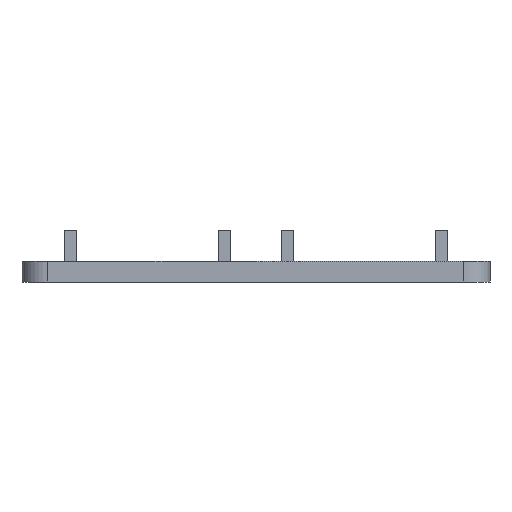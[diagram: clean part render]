
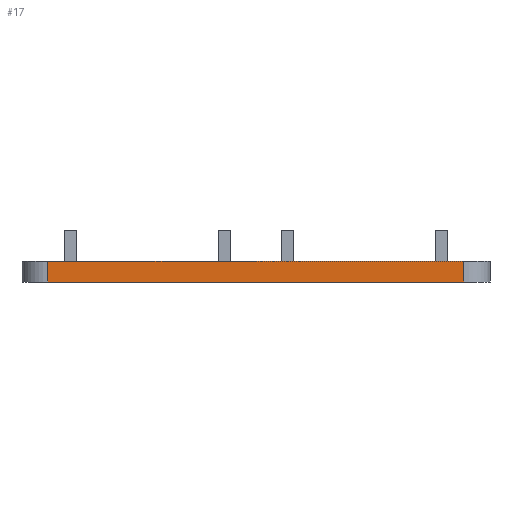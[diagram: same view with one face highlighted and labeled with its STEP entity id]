
A CAD part, left-side view. The second image highlights one B-rep face of the part: STEP entity #17.
In plain terms, the highlighted planar face has unit normal (-1, 0, 0).
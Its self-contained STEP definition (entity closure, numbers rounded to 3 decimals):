
#17 = ADVANCED_FACE('',(#18),#32,.F.);
#18 = FACE_BOUND('',#19,.F.);
#19 = EDGE_LOOP('',(#20,#55,#83,#111));
#20 = ORIENTED_EDGE('',*,*,#21,.F.);
#21 = EDGE_CURVE('',#22,#24,#26,.T.);
#22 = VERTEX_POINT('',#23);
#23 = CARTESIAN_POINT('',(-32.,-24.,2.4));
#24 = VERTEX_POINT('',#25);
#25 = CARTESIAN_POINT('',(-32.,24.,2.4));
#26 = SURFACE_CURVE('',#27,(#31,#43),.PCURVE_S1.);
#27 = LINE('',#28,#29);
#28 = CARTESIAN_POINT('',(-32.,-27.,2.4));
#29 = VECTOR('',#30,1.);
#30 = DIRECTION('',(0.,1.,0.));
#31 = PCURVE('',#32,#37);
#32 = PLANE('',#33);
#33 = AXIS2_PLACEMENT_3D('',#34,#35,#36);
#34 = CARTESIAN_POINT('',(-32.,-27.,0.));
#35 = DIRECTION('',(1.,0.,0.));
#36 = DIRECTION('',(0.,0.,1.));
#37 = DEFINITIONAL_REPRESENTATION('',(#38),#42);
#38 = LINE('',#39,#40);
#39 = CARTESIAN_POINT('',(2.4,0.));
#40 = VECTOR('',#41,1.);
#41 = DIRECTION('',(0.,-1.));
#42 = ( GEOMETRIC_REPRESENTATION_CONTEXT(2) 
PARAMETRIC_REPRESENTATION_CONTEXT() REPRESENTATION_CONTEXT('2D SPACE',''
  ) );
#43 = PCURVE('',#44,#49);
#44 = PLANE('',#45);
#45 = AXIS2_PLACEMENT_3D('',#46,#47,#48);
#46 = CARTESIAN_POINT('',(-32.,-27.,2.4));
#47 = DIRECTION('',(0.,0.,1.));
#48 = DIRECTION('',(1.,0.,0.));
#49 = DEFINITIONAL_REPRESENTATION('',(#50),#54);
#50 = LINE('',#51,#52);
#51 = CARTESIAN_POINT('',(0.,0.));
#52 = VECTOR('',#53,1.);
#53 = DIRECTION('',(0.,1.));
#54 = ( GEOMETRIC_REPRESENTATION_CONTEXT(2) 
PARAMETRIC_REPRESENTATION_CONTEXT() REPRESENTATION_CONTEXT('2D SPACE',''
  ) );
#55 = ORIENTED_EDGE('',*,*,#56,.F.);
#56 = EDGE_CURVE('',#57,#22,#59,.T.);
#57 = VERTEX_POINT('',#58);
#58 = CARTESIAN_POINT('',(-32.,-24.,0.));
#59 = SURFACE_CURVE('',#60,(#64,#71),.PCURVE_S1.);
#60 = LINE('',#61,#62);
#61 = CARTESIAN_POINT('',(-32.,-24.,0.));
#62 = VECTOR('',#63,1.);
#63 = DIRECTION('',(0.,0.,1.));
#64 = PCURVE('',#32,#65);
#65 = DEFINITIONAL_REPRESENTATION('',(#66),#70);
#66 = LINE('',#67,#68);
#67 = CARTESIAN_POINT('',(0.,-3.));
#68 = VECTOR('',#69,1.);
#69 = DIRECTION('',(1.,0.));
#70 = ( GEOMETRIC_REPRESENTATION_CONTEXT(2) 
PARAMETRIC_REPRESENTATION_CONTEXT() REPRESENTATION_CONTEXT('2D SPACE',''
  ) );
#71 = PCURVE('',#72,#77);
#72 = CYLINDRICAL_SURFACE('',#73,3.);
#73 = AXIS2_PLACEMENT_3D('',#74,#75,#76);
#74 = CARTESIAN_POINT('',(-29.,-24.,0.));
#75 = DIRECTION('',(0.,0.,1.));
#76 = DIRECTION('',(-1.,-0.,0.));
#77 = DEFINITIONAL_REPRESENTATION('',(#78),#82);
#78 = LINE('',#79,#80);
#79 = CARTESIAN_POINT('',(0.,0.));
#80 = VECTOR('',#81,1.);
#81 = DIRECTION('',(0.,1.));
#82 = ( GEOMETRIC_REPRESENTATION_CONTEXT(2) 
PARAMETRIC_REPRESENTATION_CONTEXT() REPRESENTATION_CONTEXT('2D SPACE',''
  ) );
#83 = ORIENTED_EDGE('',*,*,#84,.T.);
#84 = EDGE_CURVE('',#57,#85,#87,.T.);
#85 = VERTEX_POINT('',#86);
#86 = CARTESIAN_POINT('',(-32.,24.,0.));
#87 = SURFACE_CURVE('',#88,(#92,#99),.PCURVE_S1.);
#88 = LINE('',#89,#90);
#89 = CARTESIAN_POINT('',(-32.,-27.,0.));
#90 = VECTOR('',#91,1.);
#91 = DIRECTION('',(0.,1.,0.));
#92 = PCURVE('',#32,#93);
#93 = DEFINITIONAL_REPRESENTATION('',(#94),#98);
#94 = LINE('',#95,#96);
#95 = CARTESIAN_POINT('',(0.,0.));
#96 = VECTOR('',#97,1.);
#97 = DIRECTION('',(0.,-1.));
#98 = ( GEOMETRIC_REPRESENTATION_CONTEXT(2) 
PARAMETRIC_REPRESENTATION_CONTEXT() REPRESENTATION_CONTEXT('2D SPACE',''
  ) );
#99 = PCURVE('',#100,#105);
#100 = PLANE('',#101);
#101 = AXIS2_PLACEMENT_3D('',#102,#103,#104);
#102 = CARTESIAN_POINT('',(-32.,-27.,0.));
#103 = DIRECTION('',(0.,0.,1.));
#104 = DIRECTION('',(1.,0.,0.));
#105 = DEFINITIONAL_REPRESENTATION('',(#106),#110);
#106 = LINE('',#107,#108);
#107 = CARTESIAN_POINT('',(0.,0.));
#108 = VECTOR('',#109,1.);
#109 = DIRECTION('',(0.,1.));
#110 = ( GEOMETRIC_REPRESENTATION_CONTEXT(2) 
PARAMETRIC_REPRESENTATION_CONTEXT() REPRESENTATION_CONTEXT('2D SPACE',''
  ) );
#111 = ORIENTED_EDGE('',*,*,#112,.T.);
#112 = EDGE_CURVE('',#85,#24,#113,.T.);
#113 = SURFACE_CURVE('',#114,(#118,#125),.PCURVE_S1.);
#114 = LINE('',#115,#116);
#115 = CARTESIAN_POINT('',(-32.,24.,0.));
#116 = VECTOR('',#117,1.);
#117 = DIRECTION('',(0.,0.,1.));
#118 = PCURVE('',#32,#119);
#119 = DEFINITIONAL_REPRESENTATION('',(#120),#124);
#120 = LINE('',#121,#122);
#121 = CARTESIAN_POINT('',(0.,-51.));
#122 = VECTOR('',#123,1.);
#123 = DIRECTION('',(1.,0.));
#124 = ( GEOMETRIC_REPRESENTATION_CONTEXT(2) 
PARAMETRIC_REPRESENTATION_CONTEXT() REPRESENTATION_CONTEXT('2D SPACE',''
  ) );
#125 = PCURVE('',#126,#131);
#126 = CYLINDRICAL_SURFACE('',#127,3.);
#127 = AXIS2_PLACEMENT_3D('',#128,#129,#130);
#128 = CARTESIAN_POINT('',(-29.,24.,0.));
#129 = DIRECTION('',(0.,0.,1.));
#130 = DIRECTION('',(-1.,-0.,0.));
#131 = DEFINITIONAL_REPRESENTATION('',(#132),#136);
#132 = LINE('',#133,#134);
#133 = CARTESIAN_POINT('',(-0.,0.));
#134 = VECTOR('',#135,1.);
#135 = DIRECTION('',(-0.,1.));
#136 = ( GEOMETRIC_REPRESENTATION_CONTEXT(2) 
PARAMETRIC_REPRESENTATION_CONTEXT() REPRESENTATION_CONTEXT('2D SPACE',''
  ) );
